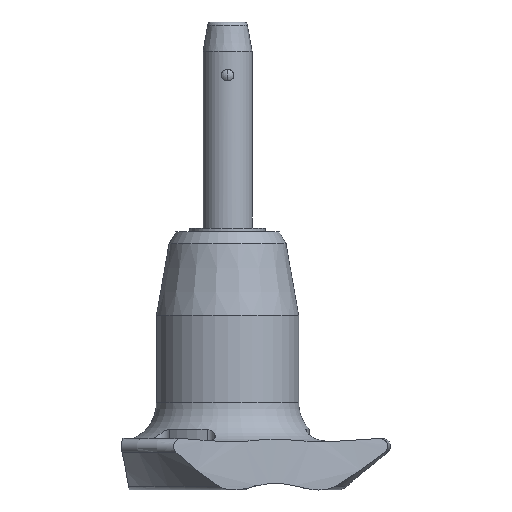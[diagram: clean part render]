
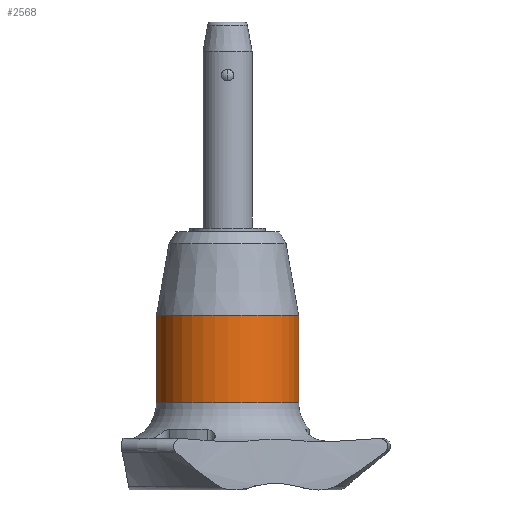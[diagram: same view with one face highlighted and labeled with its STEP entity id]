
A CAD part, front view. The second image highlights one B-rep face of the part: STEP entity #2568.
In plain terms, the highlighted cylindrical face has radius 7.25 mm (diameter 14.5 mm), a partial arc.
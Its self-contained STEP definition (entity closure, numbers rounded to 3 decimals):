
#32 = DIRECTION ( 'NONE',  ( 0., 0., -1. ) ) ;
#47 = CARTESIAN_POINT ( 'NONE',  ( 0., 0., -23.9 ) ) ;
#131 = DIRECTION ( 'NONE',  ( 0., 0., -1. ) ) ;
#173 = ORIENTED_EDGE ( 'NONE', *, *, #1748, .F. ) ;
#204 = DIRECTION ( 'NONE',  ( -1., 0., 0. ) ) ;
#277 = CIRCLE ( 'NONE', #1416, 7.25 ) ;
#370 = VERTEX_POINT ( 'NONE', #932 ) ;
#374 = VECTOR ( 'NONE', #1231, 1000. ) ;
#522 = DIRECTION ( 'NONE',  ( -1., 0., 0. ) ) ;
#640 = VECTOR ( 'NONE', #1978, 1000. ) ;
#754 = EDGE_CURVE ( 'NONE', #1505, #2049, #1098, .T. ) ;
#766 = VERTEX_POINT ( 'NONE', #1127 ) ;
#796 = LINE ( 'NONE', #1822, #374 ) ;
#835 = CARTESIAN_POINT ( 'NONE',  ( -7.25, 0., -32.8 ) ) ;
#873 = DIRECTION ( 'NONE',  ( -1., 0., 0. ) ) ;
#919 = CARTESIAN_POINT ( 'NONE',  ( -7.25, 0., -32.8 ) ) ;
#932 = CARTESIAN_POINT ( 'NONE',  ( 7.25, 0., -32.8 ) ) ;
#1030 = AXIS2_PLACEMENT_3D ( 'NONE', #47, #32, #873 ) ;
#1098 = LINE ( 'NONE', #919, #640 ) ;
#1127 = CARTESIAN_POINT ( 'NONE',  ( 7.25, 0., -23.9 ) ) ;
#1183 = EDGE_LOOP ( 'NONE', ( #2394, #2388, #2210, #173 ) ) ;
#1231 = DIRECTION ( 'NONE',  ( 0., 0., -1. ) ) ;
#1416 = AXIS2_PLACEMENT_3D ( 'NONE', #2224, #1879, #204 ) ;
#1501 = CIRCLE ( 'NONE', #1030, 7.25 ) ;
#1505 = VERTEX_POINT ( 'NONE', #2532 ) ;
#1748 = EDGE_CURVE ( 'NONE', #370, #2049, #277, .T. ) ;
#1766 = FACE_OUTER_BOUND ( 'NONE', #1183, .T. ) ;
#1814 = CARTESIAN_POINT ( 'NONE',  ( 0., 0., -32.8 ) ) ;
#1822 = CARTESIAN_POINT ( 'NONE',  ( 7.25, 0., -32.8 ) ) ;
#1879 = DIRECTION ( 'NONE',  ( 0., 0., -1. ) ) ;
#1978 = DIRECTION ( 'NONE',  ( 0., 0., -1. ) ) ;
#1992 = EDGE_CURVE ( 'NONE', #766, #1505, #1501, .T. ) ;
#2049 = VERTEX_POINT ( 'NONE', #835 ) ;
#2107 = AXIS2_PLACEMENT_3D ( 'NONE', #1814, #131, #522 ) ;
#2197 = CYLINDRICAL_SURFACE ( 'NONE', #2107, 7.25 ) ;
#2210 = ORIENTED_EDGE ( 'NONE', *, *, #754, .T. ) ;
#2224 = CARTESIAN_POINT ( 'NONE',  ( 0., 0., -32.8 ) ) ;
#2388 = ORIENTED_EDGE ( 'NONE', *, *, #1992, .T. ) ;
#2394 = ORIENTED_EDGE ( 'NONE', *, *, #2672, .F. ) ;
#2532 = CARTESIAN_POINT ( 'NONE',  ( -7.25, 0., -23.9 ) ) ;
#2568 = ADVANCED_FACE ( 'NONE', ( #1766 ), #2197, .T. ) ;
#2672 = EDGE_CURVE ( 'NONE', #766, #370, #796, .T. ) ;
